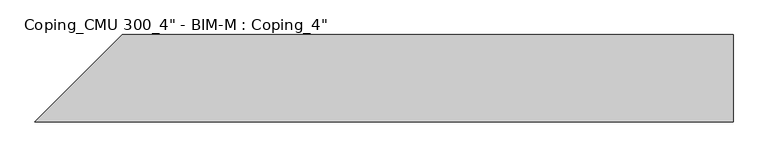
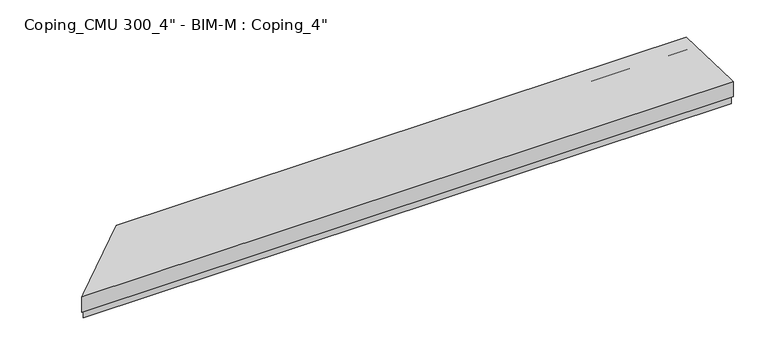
"""IFC4 building model written with IfcOpenShell, lengths in millimetres: proxy geometry."""

from ifc_helpers import new_model, si_unit, frame, origin, place, context, project, spatial, polyline, circle_curve, ellipse_curve, source, transform, mapped, element, save
from ifc_brep_helpers import plane_surface, revolved_surface, advanced_brep


def proxy_c5314579(model_context):
    return source(origin(), model_context, "Body", "AdvancedBrep", [
        advanced_brep(
        [(3536.95, 0.0, 88.1977357), (3536.95, 0.0, 0.0), (3536.95, 0.0, -50.8), (3536.95, 406.4, -50.8), (3536.95, 406.4, 0.0), (3536.95, 409.575, 0.0), (3536.95, 422.275, 0.0), (3536.95, 425.45, 0.0), (3536.95, 425.45, 76.3727891), (3536.95, -19.05, 88.7272109), (3536.95, -19.05, 0.0), (3536.95, -15.875, 0.0), (3536.95, -3.175, 0.0), (0.0, 0.0, 88.1977357), (0.0, 0.0, 0.0), (-3.175, -3.175, 0.0), (-15.875, -15.875, 0.0), (-19.05, -19.05, 0.0), (-19.05, -19.05, 88.7272109), (425.45, 425.45, 76.3727891), (425.45, 425.45, 0.0), (422.275, 422.275, 0.0), (409.575, 409.575, 0.0), (406.4, 406.4, 0.0), (406.4, 406.4, -50.8), (0.0, 0.0, -50.8)],
        [
            (0, 1),
            (1, 2),
            (2, 3),
            (3, 4),
            (4, 5),
            (5, 6, circle_curve(frame((3536.95, 415.925, 0.0), z_axis=(-1.0, 0.0, 0.0), x_axis=(0.0, -1.0, 0.0)), 6.35)),
            (6, 7),
            (7, 8),
            (8, 0),
            (0, 9),
            (9, 10),
            (10, 11),
            (11, 12, circle_curve(frame((3536.95, -9.525, 0.0), z_axis=(-1.0, 0.0, 0.0), x_axis=(0.0, -1.0, 0.0)), 6.35)),
            (12, 1),
            (13, 14),
            (14, 15),
            (15, 16, ellipse_curve(frame((-9.525, -9.525, 0.0), z_axis=(0.707106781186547, -0.707106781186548, 0.0), x_axis=(-0.7071067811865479, -0.707106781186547, 0.0)), 8.9802561, 6.35)),
            (16, 17),
            (17, 18),
            (18, 13),
            (13, 19),
            (19, 20),
            (20, 21),
            (21, 22, ellipse_curve(frame((415.925, 415.925, 0.0), z_axis=(0.7071067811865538, -0.7071067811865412, 0.0), x_axis=(-0.7071067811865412, -0.7071067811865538, 0.0)), 8.9802561, 6.35)),
            (22, 23),
            (23, 24),
            (24, 25),
            (25, 14),
            (8, 19),
            (18, 9),
            (17, 10),
            (16, 11),
            (15, 12),
            (14, 1),
            (5, 22),
            (21, 6),
            (4, 23),
            (7, 20),
            (25, 2),
            (24, 3),
        ],
        [
            plane_surface(frame((3536.95, 889.0, 304.8), z_axis=(1.0, 0.0, 0.0), x_axis=(0.0, 0.0, -1.0))),
            plane_surface(frame((3536.95, 0.0, 304.8), z_axis=(1.0, 0.0, 0.0), x_axis=(0.0, 0.0, -1.0))),
            plane_surface(frame((-628.6179285, -628.6179285, 304.8), z_axis=(-0.707106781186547, 0.707106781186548, 0.0), x_axis=(0.0, 0.0, -1.0))),
            plane_surface(frame((0.0, 0.0, 304.8), z_axis=(-0.7071067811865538, 0.7071067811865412, 0.0), x_axis=(0.0, 0.0, -1.0))),
            plane_surface(frame((3994.15, 425.45, 76.3727891), z_axis=(0.0, 0.027783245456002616, 0.9996139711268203), x_axis=(-1.0, 0.0, 0.0))),
            plane_surface(frame((3994.15, -19.05, 88.7272109), z_axis=(0.0, -1.0, 0.0), x_axis=(-1.0, 0.0, 0.0))),
            plane_surface(frame((3994.15, -19.05, 0.0), z_axis=(0.0, 0.0, -1.0), x_axis=(-1.0, 0.0, 0.0))),
            revolved_surface(polyline([(-15.875, -15.875, 0.0), (3536.95, -15.875, 0.0)]), (3994.15, -9.525, 0.0), (-1.0, 0.0, 0.0)),
            plane_surface(frame((3994.15, -3.175, 0.0), z_axis=(0.0, 0.0, -1.0), x_axis=(-1.0, 0.0, 0.0))),
            revolved_surface(polyline([(409.5749999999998, 409.575, 0.0), (3536.95, 409.575, 0.0)]), (3994.15, 415.925, 0.0), (-1.0, 0.0, 0.0)),
            plane_surface(frame((3994.15, 406.4, 0.0), z_axis=(0.0, 0.0, -1.0), x_axis=(-1.0, 0.0, 0.0))),
            plane_surface(frame((3994.15, 425.45, 0.0), z_axis=(0.0, 1.0, 0.0), x_axis=(-1.0, 0.0, 0.0))),
            plane_surface(frame((3994.15, 0.0, 0.0), z_axis=(0.0, -1.0, 0.0), x_axis=(-1.0, 0.0, 0.0))),
            plane_surface(frame((3994.15, 0.0, -50.8), z_axis=(0.0, 0.0, -1.0), x_axis=(-1.0, 0.0, 0.0))),
            plane_surface(frame((3994.15, 406.4, -50.8), z_axis=(0.0, 1.0, 0.0), x_axis=(-1.0, 0.0, 0.0))),
            plane_surface(frame((3994.15, 422.275, 0.0), z_axis=(0.0, 0.0, -1.0), x_axis=(-1.0, 0.0, 0.0))),
        ],
        [
            (0, [[1, 2, 3, 4, 5, 6, 7, 8, 9]]),
            (1, [[-1, 10, 11, 12, 13, 14]]),
            (2, [[15, 16, 17, 18, 19, 20]]),
            (3, [[-15, 21, 22, 23, 24, 25, 26, 27, 28]]),
            (4, [[-9, 29, -21, -20, 30, -10]]),
            (5, [[-11, -30, -19, 31]]),
            (6, [[-12, -31, -18, 32]]),
            (7, [[-13, -32, -17, 33]]),
            (8, [[-14, -33, -16, 34]]),
            (9, [[-6, 35, -24, 36]]),
            (10, [[-5, 37, -25, -35]]),
            (11, [[-8, 38, -22, -29]]),
            (12, [[-2, -34, -28, 39]]),
            (13, [[-3, -39, -27, 40]]),
            (14, [[-4, -40, -26, -37]]),
            (15, [[-7, -36, -23, -38]]),
        ],
    ),
    ])


if __name__ == "__main__":
    model = new_model("IFC4")
    model_context = context("Model", 3, world=origin())
    ifc_project = project(units=[si_unit("LENGTHUNIT", "METRE", prefix="MILLI")], contexts=[model_context])
    site = spatial("IfcSite", under=ifc_project)
    building = spatial("IfcBuilding", under=site)
    placement = place(None, origin())
    proxy_shape = proxy_c5314579(model_context)
    element("IfcBuildingElementProxy", 1, Name="Coping_CMU 300_4\" - BIM-M : Coping_4\"", ObjectType="Coping_CMU 300_4\" - BIM-M : Coping_4\"", at=placement, inside=building, context=model_context, shape_type="MappedRepresentation", body=[
        mapped(proxy_shape, transform((0.0, 0.0, 0.0), x_axis=(1.0, 0.0, 0.0), y_axis=(0.0, 1.0, 0.0), z_axis=(0.0, 0.0, 1.0))),
    ])
    save(model, "model.ifc")
